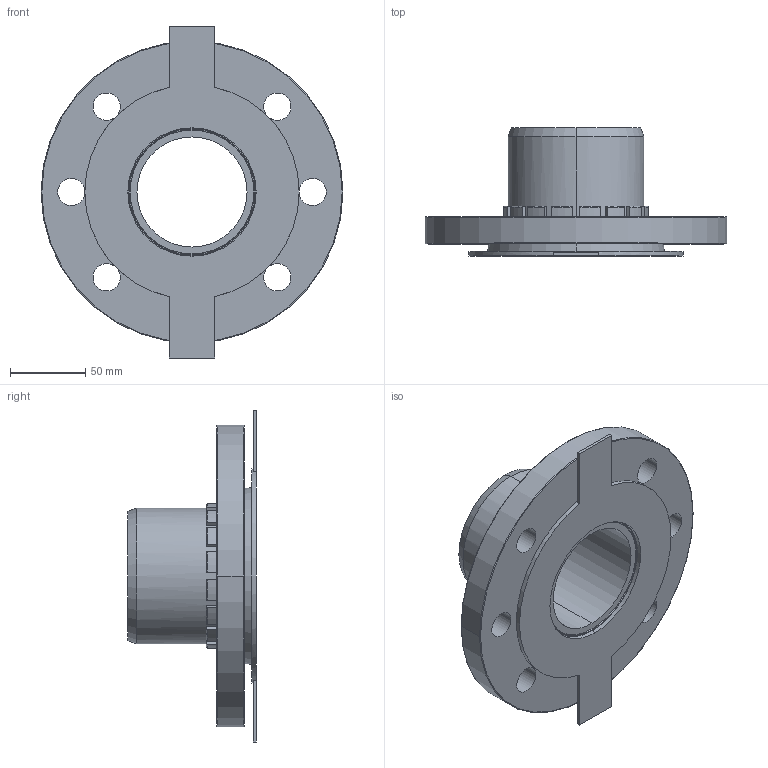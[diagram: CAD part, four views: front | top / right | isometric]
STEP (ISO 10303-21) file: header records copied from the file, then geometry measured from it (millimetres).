
FILE_DESCRIPTION (( 'STEP AP203' ), '1' );
FILE_NAME ('KP_567-90.step', '2011-08-08T11:59:28', ( '' ), ( '' ), 'SwSTEP 2.0', 'SolidWorks 2011', '' );
FILE_SCHEMA (( 'CONFIG_CONTROL_DESIGN' ));
Length unit declared in the file: millimetre
Products named in the file (1): KP_567-90
Bounding box: 200 x 85 x 220 mm (x, y, z)
Volume: 644840.6 mm3; surface area: 133062.7 mm2
Topology: 1 solids, 2 shells, 251 faces, 710 edges, 436 vertices
Faces by surface type: plane 113, cylinder 92, torus 26, cone 20
Entity records: 8341 total; most frequent: DIRECTION 1568, ORIENTED_EDGE 1420, CARTESIAN_POINT 1398, EDGE_CURVE 710, AXIS2_PLACEMENT_3D 606, VERTEX_POINT 436, VECTOR 356, LINE 356
